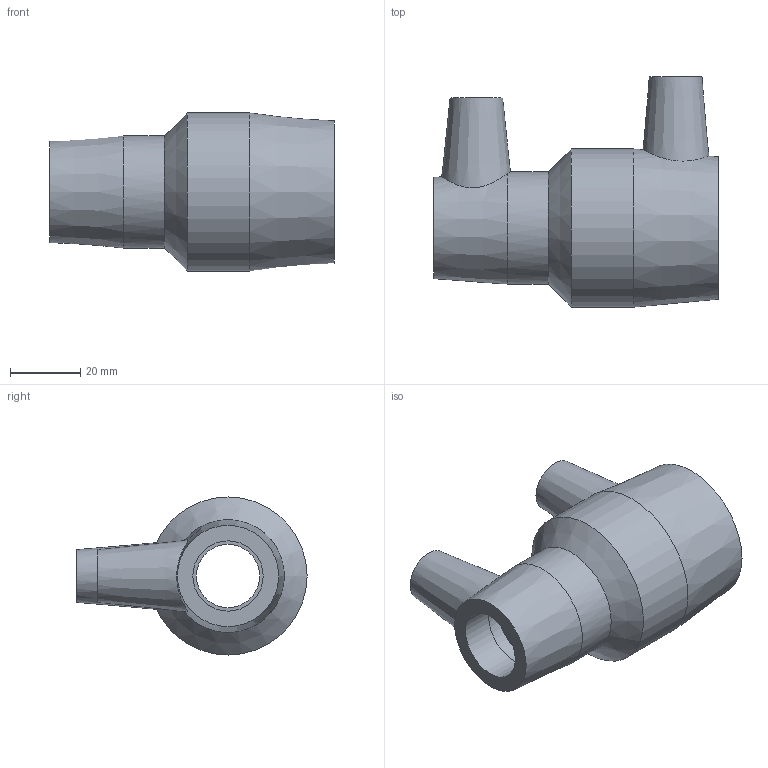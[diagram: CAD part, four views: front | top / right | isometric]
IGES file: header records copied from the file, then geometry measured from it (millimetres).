
Global section: file name: 491104032020.ipt; native system: Autodesk Inventor 2015; preprocessor: unknown; author: KIM; date: 20171106.093715; units: millimetre
Bounding box: 81 x 65.5 x 45 mm (x, y, z)
Volume: 57255.5 mm3; surface area: 21561.7 mm2
Topology: 1 solids, 1 shells, 32 faces, 74 edges, 52 vertices
Faces by surface type: plane 12, revolution 11, cone 5, cylinder 4
Full cylindrical faces by diameter (mm): 4 x2, 32 x1, 45 x1
